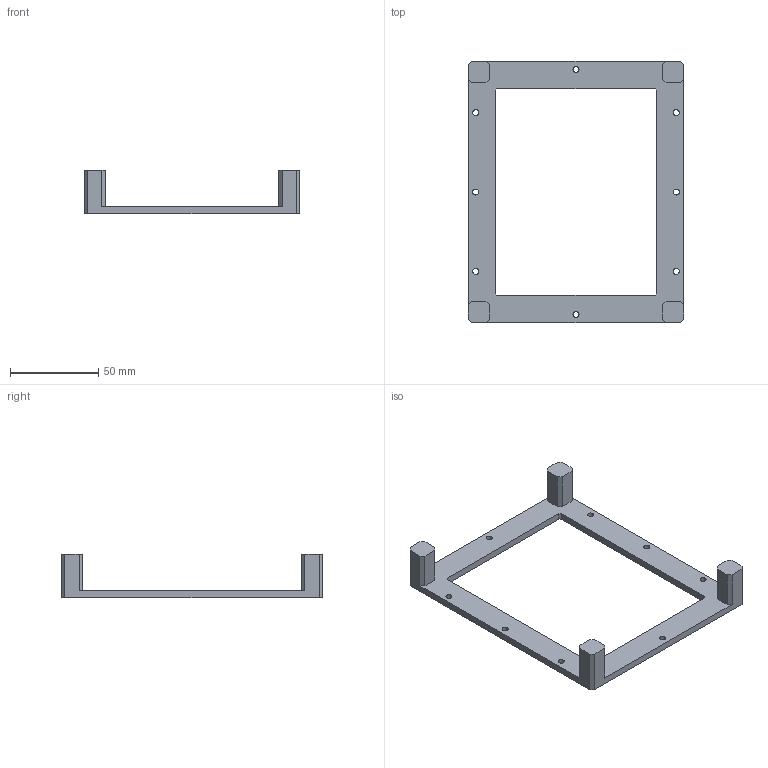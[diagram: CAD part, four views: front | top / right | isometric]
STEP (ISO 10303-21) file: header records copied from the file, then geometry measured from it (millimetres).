
FILE_DESCRIPTION (( 'STEP AP203' ), '1' );
FILE_NAME ('10_film_lower_stand.step', '2026-10-22T14:08:18', ( '' ), ( '' ), 'SwSTEP 2.0', 'SolidWorks 2025', '' );
FILE_SCHEMA (( 'CONFIG_CONTROL_DESIGN' ));
Length unit declared in the file: millimetre
Products named in the file (1): 10_film_lower_stand
Bounding box: 122 x 148 x 24.7 mm (x, y, z)
Volume: 40301.5 mm3; surface area: 22249.2 mm2
Topology: 1 solids, 1 shells, 58 faces, 168 edges, 112 vertices
Faces by surface type: plane 42, cylinder 16
Entity records: 2017 total; most frequent: CARTESIAN_POINT 339, ORIENTED_EDGE 336, DIRECTION 318, EDGE_CURVE 168, LINE 136, VECTOR 136, VERTEX_POINT 112, AXIS2_PLACEMENT_3D 91
